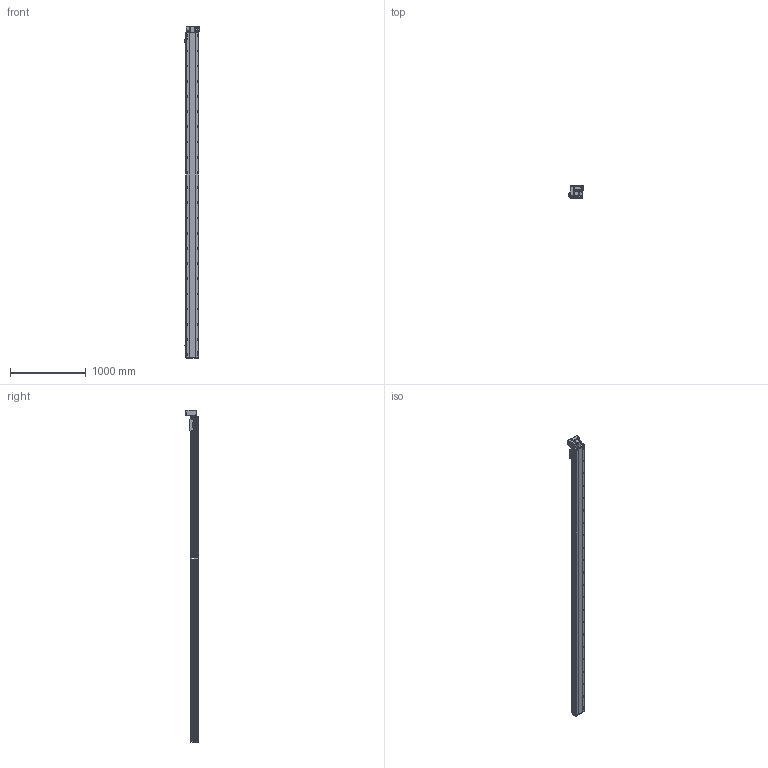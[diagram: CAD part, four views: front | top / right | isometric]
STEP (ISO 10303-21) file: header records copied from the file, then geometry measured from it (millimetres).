
FILE_DESCRIPTION (( 'STEP AP214' ), '1' );
FILE_NAME ('RTB17S-XX-4000-LW-M40-C4.STEP', '2025-12-11T07:28:32', ( '' ), ( '' ), 'SwSTEP 2.0', 'SolidWorks 2018', '' );
FILE_SCHEMA (( 'AUTOMOTIVE_DESIGN' ));
Length unit declared in the file: millimetre
Products named in the file (14): RTB17S-L-004佪裝蹟譫蟀諉釱^RTB17S-XX-XX-LW-M40-C4; RTB14-L-018P^RTB17S-LW-々湍釱蚾饜-400W_RTB17S-XX-XX-LW-M40-C4; RTB17S-XX-4000-LW-M40-C4; 400W侜督萇儂^RTB17S-XX-XX-LW-M40-C4; RTB17S-L-007奻裔^RTB17S-XX-XX-LW-M40-C4; RTB14-L-005P--轴承塑胶压盖^RTB17S-LW-皮带座装配-400W_RTB17S-XX-XX-LW-M40-C4; RTB17S-LW-々湍釱蚾饜-400W^RTB17S-XX-XX-LW-M40-C4; RTB17S-L-014-T20--々湍釱^RTB17S-LW-々湍釱蚾饜-400W_RTB17S-XX-XX-LW-M40-C4; RTB14-L-008-M20--萇儂啣^RTB17S-LW-々湍釱蚾饜-400W_RTB17S-XX-XX-LW-M40-C4; RTB14-L-017P^RTB17S-LW-々湍釱蚾饜-400W_RTB17S-XX-XX-LW-M40-C4; RTB17S-L-001耜醱啣^RTB17S-XX-XX-LW-M40-C4; RTB17-R-011菁釱^RTB17S-XX-XX-LW-M40-C4; OMRON EE-SX672 传感器^RTB17S-XX-XX-LW-M40-C4; RTH13-BL-012覜茼え俋离^RTB17S-XX-XX-LW-M40-C4
Assembly tree (16 placements, depth 3):
  RTB17S-XX-4000-LW-M40-C4
    RTB17-R-011菁釱^RTB17S-XX-XX-LW-M40-C4
    RTB17S-L-007奻裔^RTB17S-XX-XX-LW-M40-C4
    OMRON EE-SX672 传感器^RTB17S-XX-XX-LW-M40-C4  x3
    RTB17S-L-001耜醱啣^RTB17S-XX-XX-LW-M40-C4
    400W侜督萇儂^RTB17S-XX-XX-LW-M40-C4
    RTB17S-L-004佪裝蹟譫蟀諉釱^RTB17S-XX-XX-LW-M40-C4
    RTH13-BL-012覜茼え俋离^RTB17S-XX-XX-LW-M40-C4
    RTB17S-LW-々湍釱蚾饜-400W^RTB17S-XX-XX-LW-M40-C4
      RTB17S-L-014-T20--々湍釱^RTB17S-LW-々湍釱蚾饜-400W_RTB17S-XX-XX-LW-M40-C4
      RTB14-L-005P--轴承塑胶压盖^RTB17S-LW-皮带座装配-400W_RTB17S-XX-XX-LW-M40-C4
      RTB14-L-008-M20--萇儂啣^RTB17S-LW-々湍釱蚾饜-400W_RTB17S-XX-XX-LW-M40-C4
      RTB14-L-017P^RTB17S-LW-々湍釱蚾饜-400W_RTB17S-XX-XX-LW-M40-C4  x2
      RTB14-L-018P^RTB17S-LW-々湍釱蚾饜-400W_RTB17S-XX-XX-LW-M40-C4
Bounding box: 186 x 160.5 x 4372.5 mm (x, y, z)
Volume: 36841700.2 mm3; surface area: 4165039.7 mm2
Topology: 15 solids, 15 shells, 2445 faces, 6897 edges, 4509 vertices
Faces by surface type: plane 1098, cylinder 899, bspline 301, cone 139, torus 8
Entity records: 74153 total; most frequent: CARTESIAN_POINT 21302, ORIENTED_EDGE 10638, DIRECTION 9746, EDGE_CURVE 5319, VERTEX_POINT 3497, AXIS2_PLACEMENT_3D 3427, LINE 2892, VECTOR 2892
